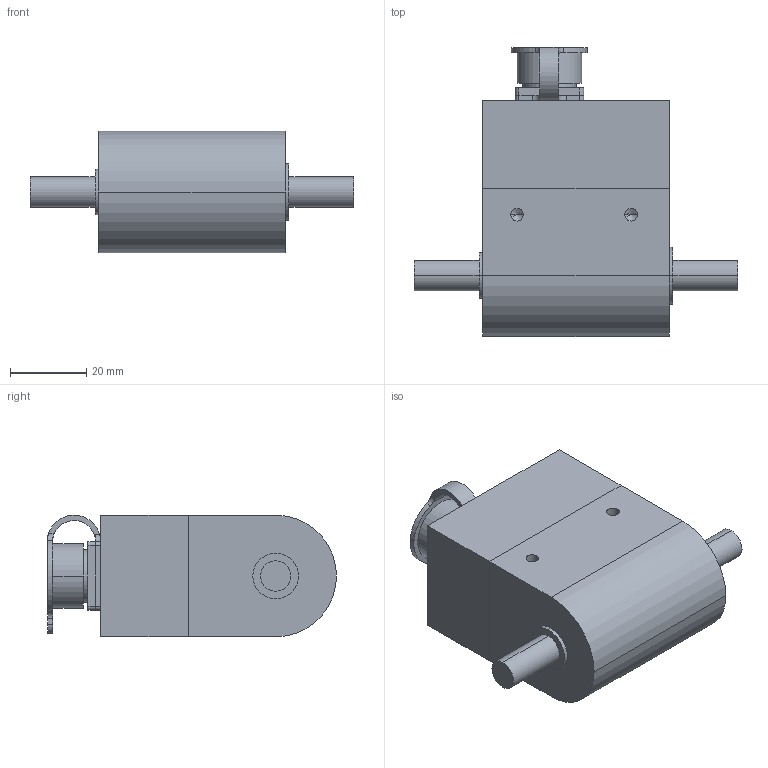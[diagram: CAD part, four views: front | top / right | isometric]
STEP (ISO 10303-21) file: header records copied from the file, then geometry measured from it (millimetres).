
FILE_DESCRIPTION (( 'STEP AP214' ), '1' );
FILE_NAME ('1050E俋倛芞.STEP', '2020-01-10T02:27:53', ( '' ), ( '' ), 'SwSTEP 2.0', 'SolidWorks 2014', '' );
FILE_SCHEMA (( 'AUTOMOTIVE_DESIGN' ));
Length unit declared in the file: millimetre
Products named in the file (4): 瑤脣奻裔; 瑤脣-聾撻; WTQ-1050E; 1050E俋倛芞
Assembly tree (3 placements, depth 2):
  1050E俋倛芞
    WTQ-1050E
    瑤脣-聾撻
    瑤脣奻裔
Bounding box: 85 x 76 x 32 mm (x, y, z)
Volume: 96177.5 mm3; surface area: 22059.9 mm2
Topology: 4 solids, 4 shells, 212 faces, 492 edges, 320 vertices
Faces by surface type: cylinder 112, plane 90, cone 10
Entity records: 6560 total; most frequent: DIRECTION 1138, CARTESIAN_POINT 1072, ORIENTED_EDGE 968, EDGE_CURVE 484, AXIS2_PLACEMENT_3D 442, VERTEX_POINT 320, EDGE_LOOP 270, VECTOR 254
